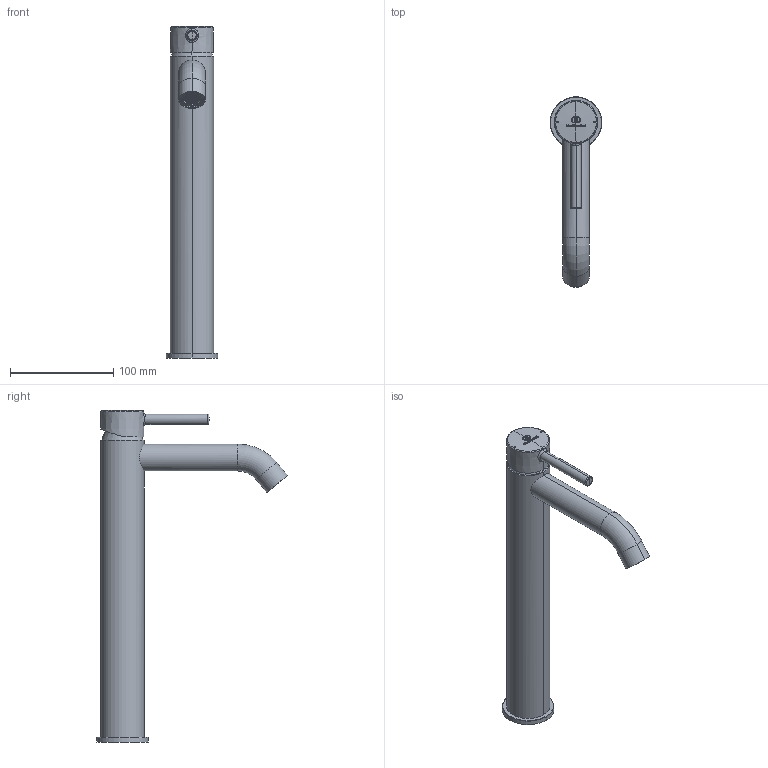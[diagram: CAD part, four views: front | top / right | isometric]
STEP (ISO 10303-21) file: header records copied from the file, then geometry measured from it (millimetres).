
FILE_DESCRIPTION((''),'2;1');
FILE_NAME('BC269AA_3DPL_','2020-06-05T',('HristovG'),('AMERICAN STANDARD B&K'),'CREO PARAMETRIC BY PTC INC, 2016130','CREO PARAMETRIC BY PTC INC, 2016130','');
FILE_SCHEMA(('CONFIG_CONTROL_DESIGN'));
Length unit declared in the file: millimetre
Products named in the file (1): BC269AA_3DPL_
Bounding box: 50 x 184.96 x 321.56 mm (x, y, z)
Volume: 524119.8 mm3; surface area: 61369.5 mm2
Topology: 1 solids, 2 shells, 1086 faces, 2608 edges, 1546 vertices
Faces by surface type: plane 608, cylinder 351, torus 44, extrusion 32, sphere 31, cone 14, bspline 6
Entity records: 35770 total; most frequent: CARTESIAN_POINT 11847, ORIENTED_EDGE 5200, DIRECTION 4453, EDGE_CURVE 2600, VECTOR 1631, LINE 1599, VERTEX_POINT 1546, AXIS2_PLACEMENT_3D 1411
